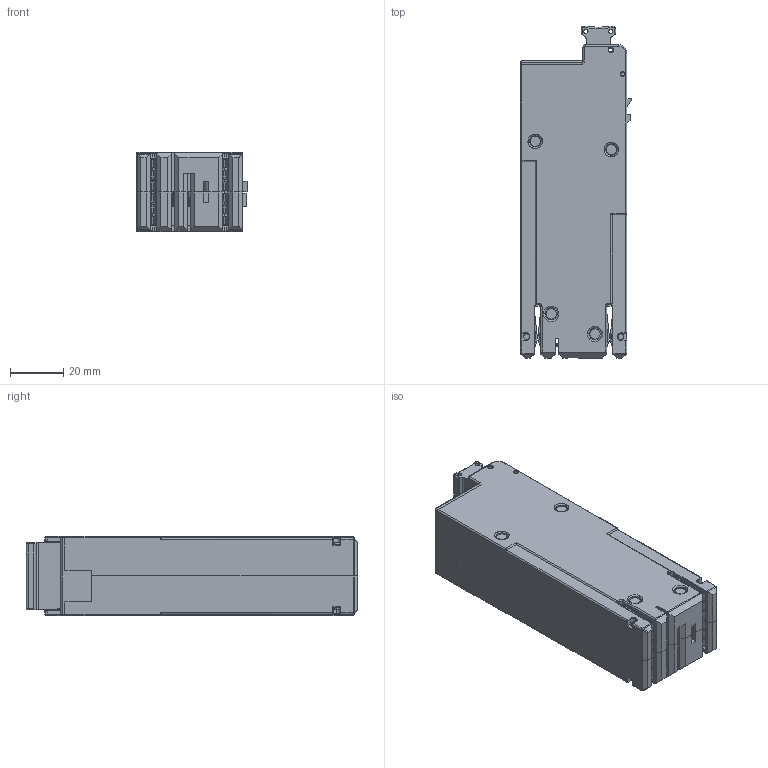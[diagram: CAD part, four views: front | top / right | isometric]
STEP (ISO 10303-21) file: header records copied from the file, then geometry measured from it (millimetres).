
FILE_DESCRIPTION (( 'STEP AP203' ), '1' );
FILE_NAME ('NDB6AZ-125H-125-1PN.STEP', '2020-10-28T03:23:40', ( '' ), ( '' ), 'SwSTEP 2.0', 'SolidWorks 2018', '' );
FILE_SCHEMA (( 'CONFIG_CONTROL_DESIGN' ));
Length unit declared in the file: millimetre
Products named in the file (23): 8LD.885.1063; 8LD.315.0003.STEP; 8LD.315.1199.STEP; 8LD.585.1278_蚾饜; 8LD.253.1387.STEP; 8LD.585.0003.STEP; 8LD.285.1072_蚾饜; 8LD.024.0006.STEP; 8LD.024.1420.STEP; 5LD.574.0005; 5LD.288.1014; 8LD.967.1028.STEP; 8LD.206.1721; 8LD.885.1062.STEP; 8LD.285.1071_蚾饜; 8LD.907.1024; 5LD.850.1069; 8LD.948.1022; NDB6AZ-125H-125-1PN; 5LD.024.0006.STEP; 8LD.967.1037.STEP; 8LD.516.1302; 8LD.441.1059.STEP
Assembly tree (29 placements, depth 4):
  NDB6AZ-125H-125-1PN
    5LD.024.0006.STEP
      8LD.024.0006.STEP
      8LD.315.0003.STEP
    8LD.253.1387.STEP
    8LD.885.1062.STEP
    8LD.441.1059.STEP
    8LD.315.1199.STEP
    8LD.967.1028.STEP  x4
    8LD.967.1037.STEP  x2
    8LD.585.0003.STEP  x2
    8LD.024.1420.STEP
    8LD.585.1278_蚾饜  x2
    8LD.885.1063
    5LD.574.0005  x2
      8LD.516.1302
      5LD.850.1069
        8LD.948.1022
        8LD.907.1024
      8LD.206.1721
      5LD.288.1014
        8LD.285.1071_蚾饜
        8LD.285.1072_蚾饜
Bounding box: 41.75 x 125.1 x 29.8 mm (x, y, z)
Volume: 50945.4 mm3; surface area: 77443 mm2
Topology: 30 solids, 30 shells, 3477 faces, 9286 edges, 5882 vertices
Faces by surface type: plane 2306, cylinder 843, torus 140, cone 121, bspline 43, sphere 24
Entity records: 95653 total; most frequent: CARTESIAN_POINT 19241, ORIENTED_EDGE 15782, DIRECTION 15024, EDGE_CURVE 7891, VECTOR 5836, LINE 5836, VERTEX_POINT 5070, AXIS2_PLACEMENT_3D 4594
